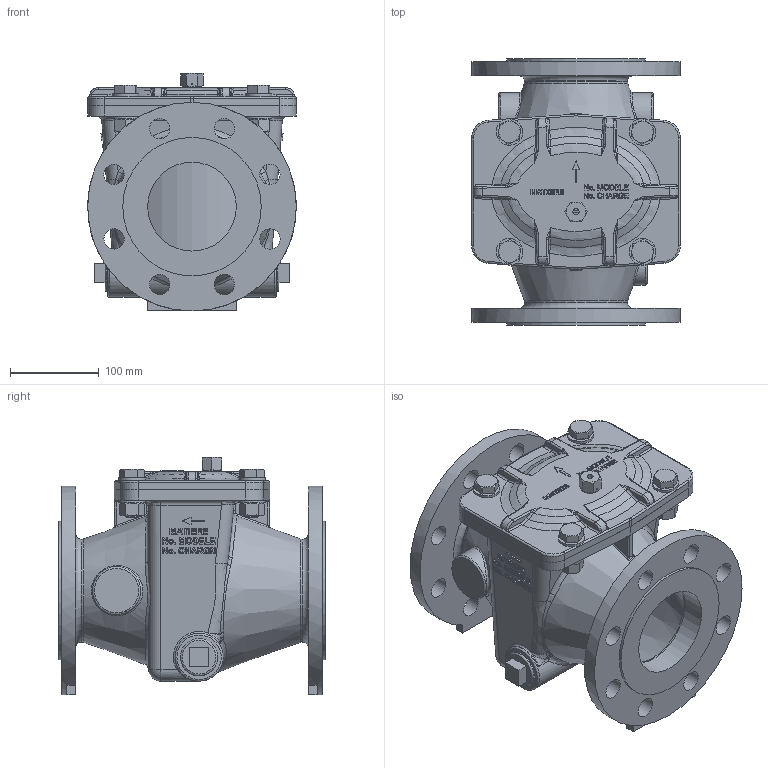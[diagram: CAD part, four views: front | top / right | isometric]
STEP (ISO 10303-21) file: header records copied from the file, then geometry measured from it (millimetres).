
FILE_DESCRIPTION(/* description */ (''),/* implementation_level */ '2;1');
FILE_NAME(/* name */ 'G:\Doc_Liberes\SymbolesCAD\Modeles_3D\FichierSTP\Aqua\Aqua90501\FAB100_40.stp',/* time_stamp */ '2017-11-27T10:55:59+01:00',/* author */ ('Cédric'),/* organization */ (''),/* preprocessor_version */ 'ST-DEVELOPER v16.13',/* originating_system */ 'Autodesk Inventor 2018',/* authorisation */ '');
FILE_SCHEMA (('AUTOMOTIVE_DESIGN { 1 0 10303 214 3 1 1 }'));
Products named in the file (15): FAB10040; 57960; 57963; 57959; 01176H; 57576-02; 57576-07; 57507; BGT7001; 57961; 57961Prot; 57961Tami; ISO 4017 - M16 x 45; ISO 4032 - M16; ISO 7089 - 16 - 140 HV
Assembly tree (28 placements, depth 3):
  FAB10040
    57960
    57963
    57959
    01176H
    57576-02
      57576-07
      57507
    BGT7001  x2
    57961
      57961Prot
      57961Tami
    ISO 4017 - M16 x 45  x4
    ISO 4032 - M16  x4
    ISO 7089 - 16 - 140 HV  x8
Bounding box: 235 x 300 x 268 mm (x, y, z)
Volume: 3475997.5 mm3; surface area: 871906.2 mm2
Topology: 26 solids, 26 shells, 1876 faces, 4816 edges, 3043 vertices
Faces by surface type: plane 936, bspline 390, cylinder 348, torus 123, cone 69, sphere 10
Full cylindrical faces by diameter (mm): 1.6 x1, 2.3 x1, 5.33 x4, 6.5 x1, 6.92 x1, 8 x1, 13.835 x4, 14 x1, 16 x4, 17 x8, 18 x8, 19.29 x1, 20.955 x1, 22.49 x4, 23 x16, 30 x8, 32 x2, 39.84 x2, 42 x2, 54 x3, 100 x2, 116 x2, 156 x2, 235 x2
Entity records: 62439 total; most frequent: CARTESIAN_POINT 21703, ORIENTED_EDGE 8788, DIRECTION 7316, EDGE_CURVE 4394, VERTEX_POINT 2837, LINE 2530, VECTOR 2530, AXIS2_PLACEMENT_3D 2393
